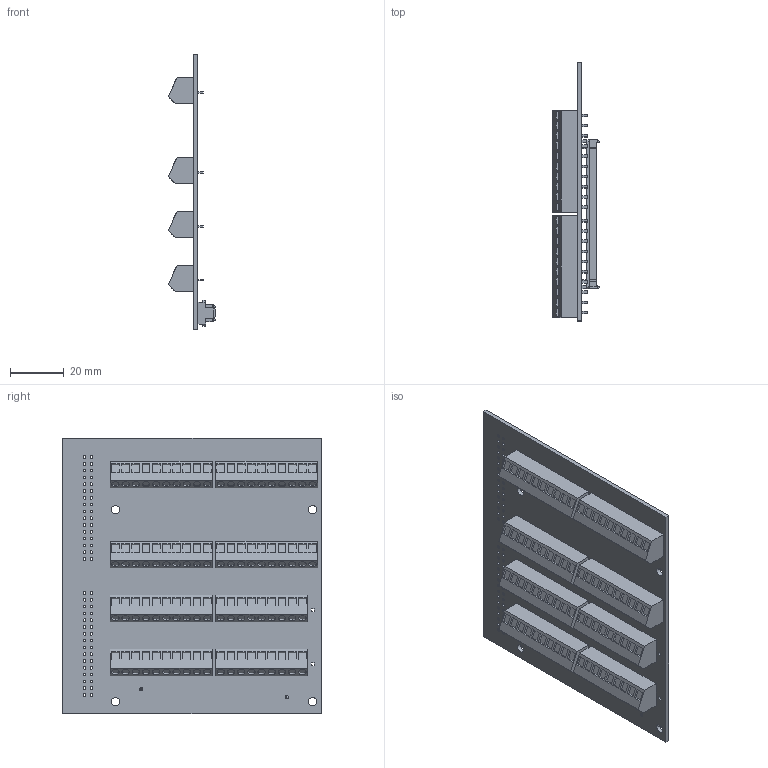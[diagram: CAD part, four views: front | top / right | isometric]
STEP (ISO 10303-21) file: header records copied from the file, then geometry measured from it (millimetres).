
FILE_DESCRIPTION((''),'2;1');
FILE_NAME('CU_NI-9694','2013-05-07T',('jbuhisan'),(''),'PRO/ENGINEER BY PARAMETRIC TECHNOLOGY CORPORATION, 2011490','PRO/ENGINEER BY PARAMETRIC TECHNOLOGY CORPORATION, 2011490','');
FILE_SCHEMA(('CONFIG_CONTROL_DESIGN'));
Length unit declared in the file: inch
Products named in the file (1): CU_NI-9694
Bounding box: 17.68 x 96.52 x 102.87 mm (x, y, z)
Volume: 39316.1 mm3; surface area: 31210.9 mm2
Topology: 1 solids, 1 shells, 1867 faces, 4541 edges, 2996 vertices
Faces by surface type: plane 1351, cylinder 510, bspline 4, sphere 2
Entity records: 55077 total; most frequent: CARTESIAN_POINT 9750, DIRECTION 9281, ORIENTED_EDGE 9078, EDGE_CURVE 4539, VECTOR 3511, LINE 3511, VERTEX_POINT 2996, AXIS2_PLACEMENT_3D 2885
